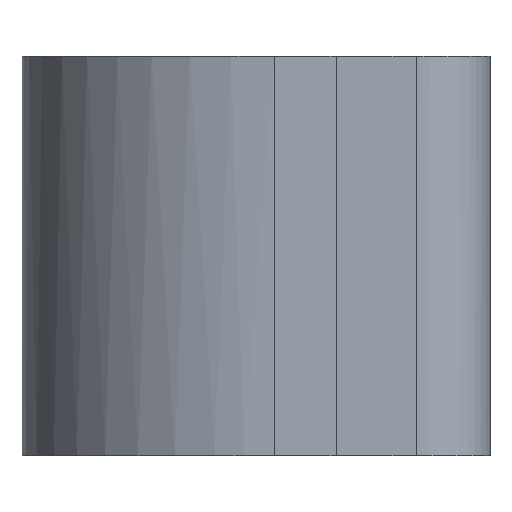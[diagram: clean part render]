
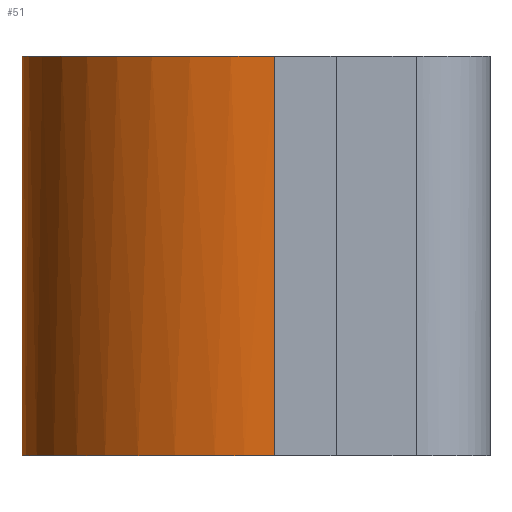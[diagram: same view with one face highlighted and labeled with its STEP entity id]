
A CAD part, left-side view. The second image highlights one B-rep face of the part: STEP entity #51.
In plain terms, the highlighted free-form (B-spline) face has degree [3, 1] with [4, 2] control points.
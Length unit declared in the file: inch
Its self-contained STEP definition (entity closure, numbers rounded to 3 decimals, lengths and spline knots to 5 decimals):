
#51=ADVANCED_FACE('',(#112),#113,.T.);
#112=FACE_OUTER_BOUND('',#196,.T.);
#113=B_SPLINE_SURFACE_WITH_KNOTS('',3,1,((#197,#198),(#199,#200),(#201,#202),(#203,#204)),.UNSPECIFIED.,.F.,.F.,.F.,(4,4),(2,2),(0.0,1.0),(0.0,0.8125),.UNSPECIFIED.);
#196=EDGE_LOOP('',(#335,#336,#337,#338));
#197=CARTESIAN_POINT('',(0.47603,0.63888,0.0));
#198=CARTESIAN_POINT('',(0.47603,0.63888,0.8125));
#199=CARTESIAN_POINT('',(0.19238,0.63888,0.0));
#200=CARTESIAN_POINT('',(0.19238,0.63888,0.8125));
#201=CARTESIAN_POINT('',(-0.03758,0.40892,0.0));
#202=CARTESIAN_POINT('',(-0.03758,0.40892,0.8125));
#203=CARTESIAN_POINT('',(-0.03758,0.12527,0.0));
#204=CARTESIAN_POINT('',(-0.03758,0.12527,0.8125));
#335=ORIENTED_EDGE('',*,*,#491,.T.);
#336=ORIENTED_EDGE('',*,*,#492,.F.);
#337=ORIENTED_EDGE('',*,*,#472,.T.);
#338=ORIENTED_EDGE('',*,*,#493,.T.);
#472=EDGE_CURVE('',#553,#550,#554,.T.);
#491=EDGE_CURVE('',#588,#589,#590,.T.);
#492=EDGE_CURVE('',#553,#589,#591,.T.);
#493=EDGE_CURVE('',#550,#588,#592,.T.);
#550=VERTEX_POINT('',#669);
#553=VERTEX_POINT('',#673);
#554=B_SPLINE_CURVE_WITH_KNOTS('',3,(#674,#675,#676,#677),.UNSPECIFIED.,.F.,.F.,(4,4),(0.0,1.0),.UNSPECIFIED.);
#588=VERTEX_POINT('',#741);
#589=VERTEX_POINT('',#742);
#590=B_SPLINE_CURVE_WITH_KNOTS('',3,(#743,#744,#745,#746),.UNSPECIFIED.,.F.,.F.,(4,4),(-1.0,-0.0),.UNSPECIFIED.);
#591=LINE('',#747,#748);
#592=LINE('',#749,#750);
#669=CARTESIAN_POINT('',(-0.03758,0.12527,0.0));
#673=CARTESIAN_POINT('',(0.47603,0.63888,0.0));
#674=CARTESIAN_POINT('',(0.47603,0.63888,0.0));
#675=CARTESIAN_POINT('',(0.19238,0.63888,0.0));
#676=CARTESIAN_POINT('',(-0.03758,0.40892,0.0));
#677=CARTESIAN_POINT('',(-0.03758,0.12527,0.0));
#741=CARTESIAN_POINT('',(-0.03758,0.12527,0.8125));
#742=CARTESIAN_POINT('',(0.47603,0.63888,0.8125));
#743=CARTESIAN_POINT('',(-0.03758,0.12527,0.8125));
#744=CARTESIAN_POINT('',(-0.03758,0.40892,0.8125));
#745=CARTESIAN_POINT('',(0.19238,0.63888,0.8125));
#746=CARTESIAN_POINT('',(0.47603,0.63888,0.8125));
#747=CARTESIAN_POINT('',(0.47603,0.63888,0.0));
#748=VECTOR('',#868,1.0);
#749=CARTESIAN_POINT('',(-0.03758,0.12527,0.0));
#750=VECTOR('',#869,1.0);
#868=DIRECTION('',(0.0,0.0,1.0));
#869=DIRECTION('',(0.0,0.0,1.0));
